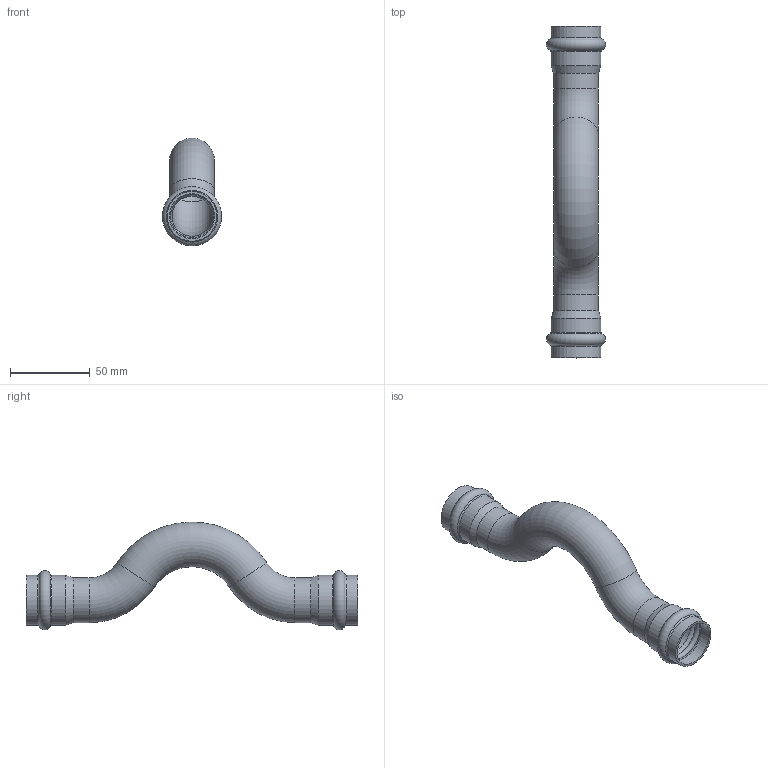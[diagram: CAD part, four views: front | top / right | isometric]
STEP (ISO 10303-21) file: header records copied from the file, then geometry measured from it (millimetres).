
FILE_DESCRIPTION(('STEP AP203'), '1');
FILE_NAME('VTi.971.I.002828', '', ('UNSPECIFIED'), ('UNSPECIFIED'), 'C3D Converter', 'C3D Toolkit', '');
FILE_SCHEMA(('CONFIG_CONTROL_DESIGN'));
Length unit declared in the file: millimetre
Products named in the file (1): ВР.302661.008.000 СБ
Bounding box: 37.09 x 208 x 67.52 mm (x, y, z)
Volume: 32321.6 mm3; surface area: 43144.5 mm2
Topology: 2 solids, 2 shells, 38 faces, 80 edges, 44 vertices
Faces by surface type: torus 20, cylinder 12, cone 4, plane 2
Full cylindrical faces by diameter (mm): 25.04 x2, 28 x2, 28.3 x4, 31.26 x4
Entity records: 864 total; most frequent: DIRECTION 164, CARTESIAN_POINT 125, ORIENTED_EDGE 86, AXIS2_PLACEMENT_3D 82, EDGE_LOOP 74, FACE_OUTER_BOUND 58, EDGE_CURVE 43, VERTEX_POINT 43
